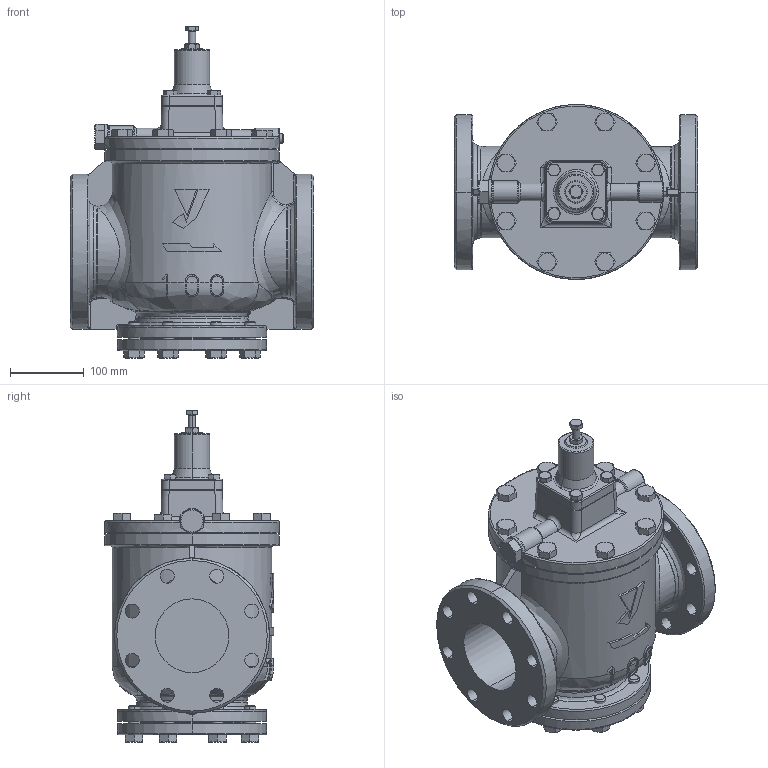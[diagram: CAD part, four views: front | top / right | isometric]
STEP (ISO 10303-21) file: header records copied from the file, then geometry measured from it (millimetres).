
FILE_DESCRIPTION( (''), '2;1');
FILE_NAME ('PC1015.148.GP-1000(100A)JIS10K3D_5128.stp','2024-07-30T15:02:03',(''),(''),'spGate 19.8.4 (****-****-****-****)','','');
FILE_SCHEMA (('AUTOMOTIVE_DESIGN'));
Length unit declared in the file: millimetre
Products named in the file (18): Assembly; GP-1000 100A; CP_''_JIS B 1180 呼び径六角ボルト''_17166; CP_''_JIS B 1180 呼び径六角ボ''_(1)_17166; CP_''_JIS B 1181 六角ナット 3種 上 ''_701; CP_''_JIS B 1180 呼び径六角ボ''_(2)_17166; CP_''_JIS B 1180 呼び径六角ボ''_(3)_17166; CP_''_JIS B 1180 呼び径六角ボ''_(3)_1_mr-2; CP_''_JIS B 1180 呼び径六角ボ''_(3)_1_mr-3; CP_''_JIS B 1180 呼び径六角ボ''_(3)_1_mr-4; CP_''_JIS B 1180 呼び径六角ボ''_(4)_17166; CP_''_JIS B 1180 呼び径六角ボ''_(4)_171_mr; CP_''_JIS B 1180 呼び径六角ボ''_(4)_1_mr-1; CP_''_JIS B 1180 呼び径六角ボ''_(4)_1_mr-2; CP_''_JIS B 1180 呼び径六角ボ''_(4)_1_mr-3; CP_''_JIS B 1180 呼び径六角ボ''_(4)_1_mr-4; CP_''_JIS B 1180 呼び径六角ボ''_(4)_1_mr-5; CP_''_JIS B 1180 呼び径六角ボ''_(4)_1_mr-6
Assembly tree (24 placements, depth 2):
  Assembly
    GP-1000 100A
    CP_''_JIS B 1180 呼び径六角ボルト''_17166  x8
    CP_''_JIS B 1180 呼び径六角ボ''_(1)_17166
    CP_''_JIS B 1181 六角ナット 3種 上 ''_701
    CP_''_JIS B 1180 呼び径六角ボ''_(2)_17166
    CP_''_JIS B 1180 呼び径六角ボ''_(3)_17166
    CP_''_JIS B 1180 呼び径六角ボ''_(3)_1_mr-2
    CP_''_JIS B 1180 呼び径六角ボ''_(3)_1_mr-3
    CP_''_JIS B 1180 呼び径六角ボ''_(3)_1_mr-4
    CP_''_JIS B 1180 呼び径六角ボ''_(4)_17166
    CP_''_JIS B 1180 呼び径六角ボ''_(4)_171_mr
    CP_''_JIS B 1180 呼び径六角ボ''_(4)_1_mr-1
    CP_''_JIS B 1180 呼び径六角ボ''_(4)_1_mr-2
    CP_''_JIS B 1180 呼び径六角ボ''_(4)_1_mr-3
    CP_''_JIS B 1180 呼び径六角ボ''_(4)_1_mr-4
    CP_''_JIS B 1180 呼び径六角ボ''_(4)_1_mr-5
    CP_''_JIS B 1180 呼び径六角ボ''_(4)_1_mr-6
Bounding box: 330 x 237 x 450 mm (x, y, z)
Volume: 11590787.1 mm3; surface area: 691426.7 mm2
Topology: 24 solids, 24 shells, 939 faces, 2163 edges, 1336 vertices
Faces by surface type: bspline 358, plane 337, cylinder 239, sphere 5
Entity records: 45819 total; most frequent: CARTESIAN_POINT 15370, ORIENTED_EDGE 3614, DIRECTION 2693, COLOUR_RGB 2595, PRESENTATION_STYLE_ASSIGNMENT 2595, STYLED_ITEM 2595, EDGE_CURVE 1807, DRAUGHTING_PRE_DEFINED_CURVE_FONT 1807
